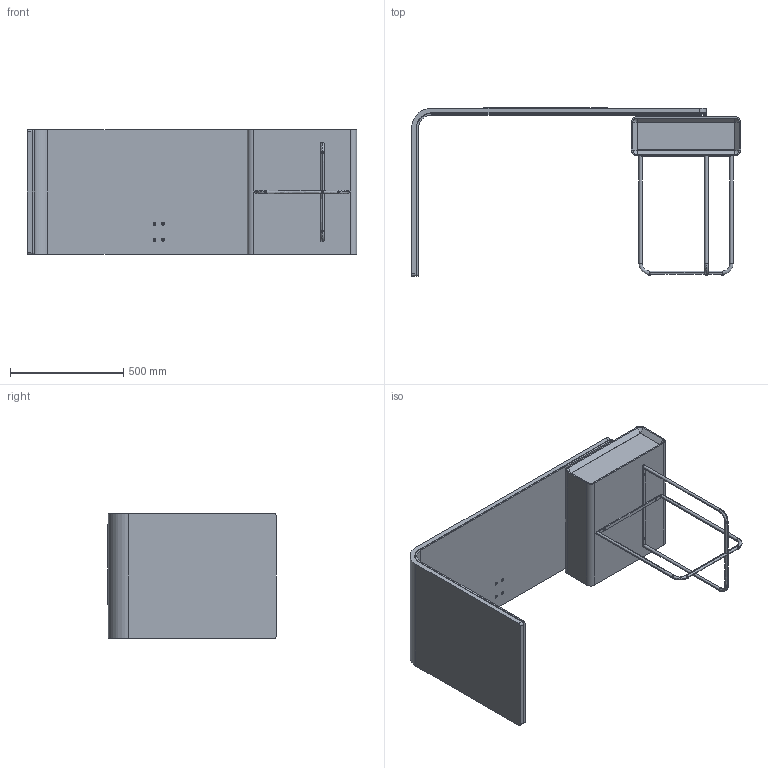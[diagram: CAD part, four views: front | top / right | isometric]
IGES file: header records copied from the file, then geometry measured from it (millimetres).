
Start section: SolidWorks IGES file using analytic representation for surfaces
Global section: file name: Y:\eforma\TECNICO\SOLIDWORKS\E-FORMA\7-SCRIVANIE\AURI\02 parts\AU01W_Auri Desk_145x55x74h.IGS; native system: SolidWorks 2022; preprocessor: SolidWorks 2022; author: eforma.tech; date: 240806.090247; units: millimetre
Bounding box: 1450.5 x 742 x 550 mm (x, y, z)
Volume: 55561332.5 mm3; surface area: 5317585.3 mm2
Topology: 23 solids, 23 shells, 375 faces, 907 edges, 546 vertices
Faces by surface type: revolution 221, plane 122, bspline 32
